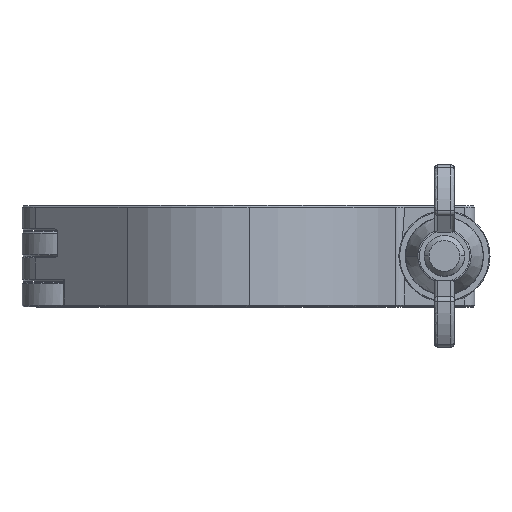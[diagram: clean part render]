
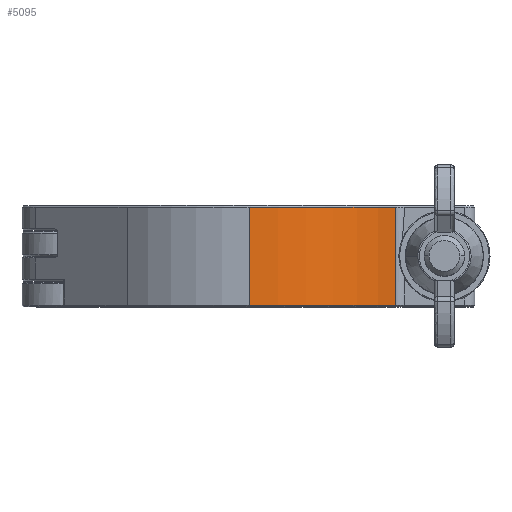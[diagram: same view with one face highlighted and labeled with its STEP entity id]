
A CAD part, top view. The second image highlights one B-rep face of the part: STEP entity #5095.
In plain terms, the highlighted cylindrical face has radius 27.178 mm (diameter 54.356 mm), a partial arc.
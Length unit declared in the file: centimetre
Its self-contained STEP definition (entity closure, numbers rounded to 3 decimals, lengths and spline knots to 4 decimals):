
#120 = EDGE_CURVE ( 'NONE', #7156, #6335, #8544, .T. ) ;
#122 = EDGE_CURVE ( 'NONE', #6794, #7156, #8526, .T. ) ;
#227 = EDGE_CURVE ( 'NONE', #6335, #6593, #8645, .T. ) ;
#401 = DIRECTION ( 'NONE',  ( 0., 1., 0. ) ) ;
#405 = CARTESIAN_POINT ( 'NONE',  ( 0., -0.7683, 2.7178 ) ) ;
#1816 = CARTESIAN_POINT ( 'NONE',  ( 0., -0.7683, 2.7178 ) ) ;
#1845 = CARTESIAN_POINT ( 'NONE',  ( 0., 0.7684, 2.7178 ) ) ;
#1933 = CARTESIAN_POINT ( 'NONE',  ( 2.2995, 0.7684, 1.4487 ) ) ;
#2223 = CARTESIAN_POINT ( 'NONE',  ( 2.2995, -0.7684, 1.4487 ) ) ;
#3436 = ORIENTED_EDGE ( 'NONE', *, *, #122, .F. ) ;
#3438 = ORIENTED_EDGE ( 'NONE', *, *, #4686, .F. ) ;
#3552 = ORIENTED_EDGE ( 'NONE', *, *, #227, .F. ) ;
#3640 = ORIENTED_EDGE ( 'NONE', *, *, #120, .F. ) ;
#3794 = EDGE_LOOP ( 'NONE', ( #3552, #3640, #3436, #3438 ) ) ;
#4327 = CARTESIAN_POINT ( 'NONE',  ( 2.2995, -0.4762, 1.4487 ) ) ;
#4328 = CARTESIAN_POINT ( 'NONE',  ( 0., -0.7683, 0. ) ) ;
#4329 = DIRECTION ( 'NONE',  ( 0., -1., 0. ) ) ;
#4330 = DIRECTION ( 'NONE',  ( -0.991, 0., 0.13 ) ) ;
#4332 = DIRECTION ( 'NONE',  ( 0., -1., 0. ) ) ;
#4399 = CIRCLE ( 'NONE', #7832, 2.7178 ) ;
#4686 = EDGE_CURVE ( 'NONE', #6593, #6794, #4399, .T. ) ;
#5095 = ADVANCED_FACE ( 'NONE', ( #11336 ), #11349, .T. ) ;
#5351 = AXIS2_PLACEMENT_3D ( 'NONE', #10504, #10503, #10499 ) ;
#6335 = VERTEX_POINT ( 'NONE', #1816 ) ;
#6593 = VERTEX_POINT ( 'NONE', #1845 ) ;
#6794 = VERTEX_POINT ( 'NONE', #1933 ) ;
#7156 = VERTEX_POINT ( 'NONE', #2223 ) ;
#7593 = AXIS2_PLACEMENT_3D ( 'NONE', #4328, #4329, #4330 ) ;
#7832 = AXIS2_PLACEMENT_3D ( 'NONE', #10632, #10633, #10635 ) ;
#8216 = VECTOR ( 'NONE', #401, 100. ) ;
#8526 = LINE ( 'NONE', #4327, #8571 ) ;
#8544 = CIRCLE ( 'NONE', #7593, 2.7178 ) ;
#8571 = VECTOR ( 'NONE', #4332, 100. ) ;
#8645 = LINE ( 'NONE', #405, #8216 ) ;
#10499 = DIRECTION ( 'NONE',  ( 0., 0., 1. ) ) ;
#10503 = DIRECTION ( 'NONE',  ( 0., 1., 0. ) ) ;
#10504 = CARTESIAN_POINT ( 'NONE',  ( 0., -0.7683, 0. ) ) ;
#10632 = CARTESIAN_POINT ( 'NONE',  ( 0., 0.7684, 0. ) ) ;
#10633 = DIRECTION ( 'NONE',  ( 0., 1., 0. ) ) ;
#10635 = DIRECTION ( 'NONE',  ( 0.114, 0., 0.994 ) ) ;
#11336 = FACE_OUTER_BOUND ( 'NONE', #3794, .T. ) ;
#11349 = CYLINDRICAL_SURFACE ( 'NONE', #5351, 2.7178 ) ;
